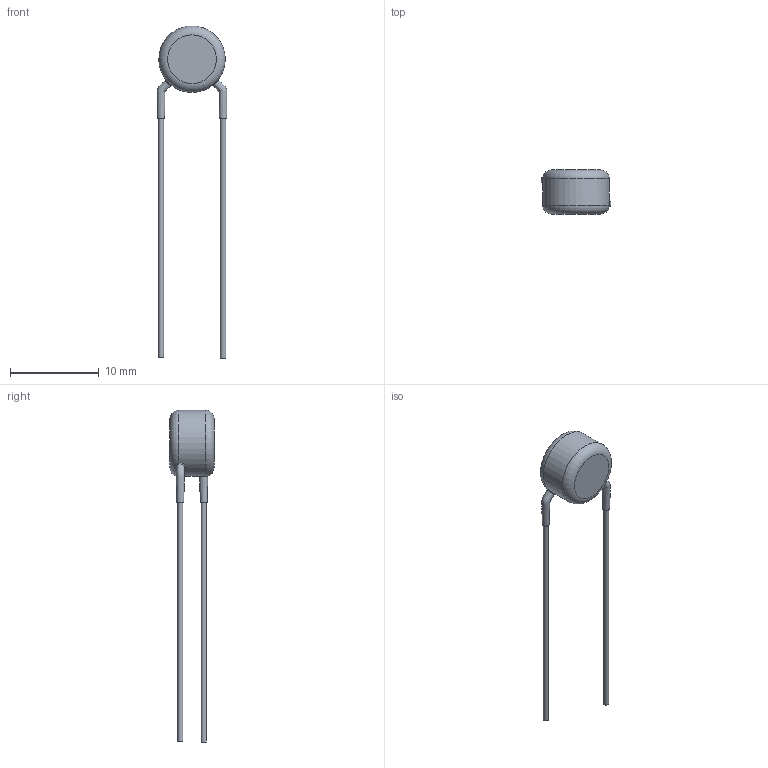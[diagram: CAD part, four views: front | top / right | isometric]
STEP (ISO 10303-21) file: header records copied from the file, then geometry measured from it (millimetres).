
FILE_DESCRIPTION(/* description */ (''),/* implementation_level */ '2;1');
FILE_NAME(/* name */ 'I:\Marketing\M6t1\3D-Models\Zchng-Werk-3\Upload for homepage\BCC neu\AY2 Straight\Step\AY2220K29U2JS63L7.stp',/* time_stamp */ '2023-07-13T14:05:16+02:00',/* author */ ('truediger'),/* organization */ (''),/* preprocessor_version */ 'ST-DEVELOPER v18',/* originating_system */ 'Autodesk Inventor 2020',/* authorisation */ '');
FILE_SCHEMA (('AUTOMOTIVE_DESIGN { 1 0 10303 214 3 1 1 }'));
Length unit declared in the file: millimetre
Products named in the file (1): Bauteil2
Bounding box: 7.89 x 5 x 37.5 mm (x, y, z)
Volume: 232 mm3; surface area: 310.7 mm2
Topology: 1 solids, 1 shells, 19 faces, 43 edges, 28 vertices
Faces by surface type: bspline 8, plane 6, cylinder 3, torus 2
Full cylindrical faces by diameter (mm): 0.6 x2, 7.5 x1
Entity records: 1812 total; most frequent: CARTESIAN_POINT 1351, ORIENTED_EDGE 86, DIRECTION 75, EDGE_CURVE 43, AXIS2_PLACEMENT_3D 36, VERTEX_POINT 28, CIRCLE 24, EDGE_LOOP 21
